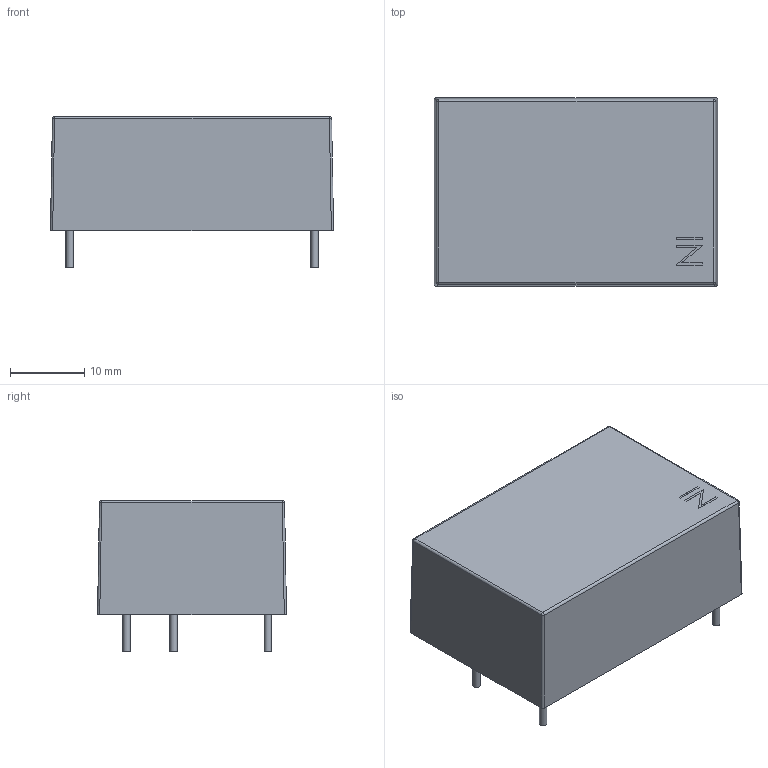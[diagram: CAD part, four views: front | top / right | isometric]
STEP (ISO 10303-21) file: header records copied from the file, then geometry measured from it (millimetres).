
FILE_DESCRIPTION (( 'STEP AP214' ), '1' );
FILE_NAME ('ECE10 SPEC.STEP', '2013-03-19T16:22:25', ( 'dcook' ), ( '' ), 'SwSTEP 2.0', 'SolidWorks 2013', '' );
FILE_SCHEMA (( 'AUTOMOTIVE_DESIGN' ));
Length unit declared in the file: inch
Products named in the file (22): TX1; TAPE 1; COIL 1; WIRE 1; WIRE 2; WIRE 3; WIRE 4; TXC1; CAP 1; CY4_000802; R3; ECE10 PCB1; C3; IND2; L21; OPTO2; ECE10 BASE; CAP 4; ECE10 CASE; ECE10 SPEC PCBA; ECE10 SPEC; fe1
Assembly tree (25 placements, depth 4):
  ECE10 SPEC
    ECE10 SPEC PCBA
      CAP 4
      OPTO2
      L21  x4
      IND2
      C3  x2
      ECE10 PCB1
      R3
      CY4_000802
      CAP 1
      TX1
        TXC1
        WIRE 4
        WIRE 3
        WIRE 2
        WIRE 1
        COIL 1
        TAPE 1
      fe1
    ECE10 CASE
    ECE10 BASE
Bounding box: 38.2 x 25.5 x 20.37 mm (x, y, z)
Volume: 6510 mm3; surface area: 13607.1 mm2
Topology: 23 solids, 23 shells, 457 faces, 1124 edges, 736 vertices
Faces by surface type: plane 316, cylinder 78, bspline 60, cone 3
Full cylindrical faces by diameter (mm): 0.36 x8, 0.5 x4, 0.7 x8, 1 x4, 1.041 x4, 1.5 x4, 2.64 x1, 3 x1, 3.5 x1, 3.75 x1, 6.46 x1, 8.18 x2, 14.13 x1
Entity records: 22391 total; most frequent: CARTESIAN_POINT 6207, ORIENTED_EDGE 1972, DIRECTION 1855, EDGE_CURVE 986, VECTOR 747, LINE 747, VERTEX_POINT 679, AXIS2_PLACEMENT_3D 554
